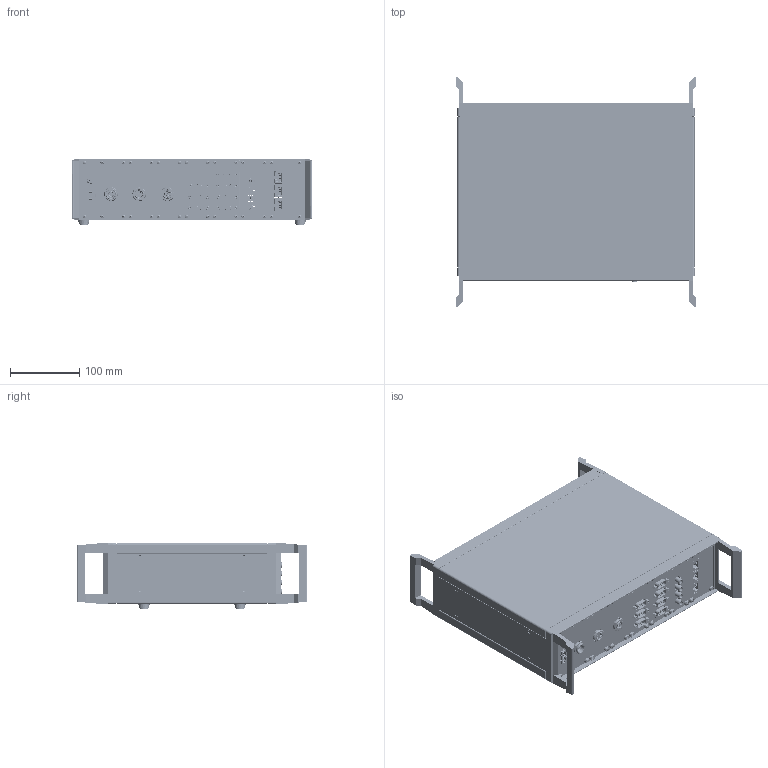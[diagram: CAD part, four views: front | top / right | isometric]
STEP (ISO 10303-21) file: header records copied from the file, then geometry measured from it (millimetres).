
FILE_DESCRIPTION(/* description */ ('VX1161 Customer Reference Model'),/* implementation_level */ '2;1');
FILE_NAME(/* name */ 'C:\Users\teamcentersystem\Documents\Inventor\GRP_001045_iam.STP',/* time_stamp */ '2020-01-08T13:30:54+01:00',/* author */ ('viskhp'),/* organization */ (''),/* preprocessor_version */ 'ST-DEVELOPER v17.2',/* originating_system */ 'Autodesk Inventor 2019',/* authorisation */ '');
FILE_SCHEMA (('AUTOMOTIVE_DESIGN { 1 0 10303 214 3 1 1 }'));
Products named in the file (70): GRP_001045; GRP_000242; CMP_001643; CMP_001635; CMP_001648; CMP_001644; CMP_001638; CMP_001652; CMP_001651; CMP_001650; CMP_001645; CMP_001640; CMP_001639; CMP_001637; CMP_001646; CMP_001642; CMP_001641; CMP_001636; CMP_001657; CMP_001649; CMP_001647; CMP_001656; CMP_001654; CMP_001655; CMP_001653; CMP_001634; CMP_001488; GRP_000268; MEC_000405; MEC_000405_1; LBL_000212; MEC_000299; ASY_000398; LBL_000246; ASY_000396; MEC_000378; LBL_000247; MEC_000318; ASY_000397; GRP_000272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
Assembly tree (222 placements, depth 5):
  GRP_001045
    GRP_000242
      CMP_001643  x4
      CMP_001635  x2
      CMP_001644  x6
      CMP_001634  x4
      CMP_001648  x2
      CMP_001638  x2
      CMP_001652  x16
        CMP_001651
        CMP_001650
      CMP_001645  x16
      CMP_001640
        CMP_001639
        CMP_001636  x2
          CMP_001649
          CMP_001657
      CMP_001637  x4
      CMP_001646
      CMP_001642
        CMP_001641
        CMP_001636  x2
          CMP_001649
          CMP_001657
      CMP_001647  x2
      CMP_001656  x4
        CMP_001654
        CMP_001655
        CMP_001653
      CMP_001488  x8
    GRP_000268
      MEC_000405
        MEC_000405_1
        CMP_000493
      CMP_001630
      CMP_001632  x2
      CMP_002060  x2
    LBL_000212
    MEC_000299
    MEC_000318  x3
    ASY_000398
    GRP_000272  x3
      MEC_000409
        MEC_000409_1
        CMP_000493  x2
      CMP_001630
      CMP_001632
      CMP_002060
    LBL_000246
    ASY_000396
    MEC_000378
    LBL_000247
    ASY_000397
    LBL_000216
    MEC_000300
    GRP_000273
      MEC_000467
      CMP_001630
      CMP_001632  x4
      CMP_002060  x4
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Bounding box: 347.42 x 331.99 x 95.33 mm (x, y, z)
Volume: 955142.5 mm3; surface area: 1334937.4 mm2
Topology: 446 solids, 446 shells, 48592 faces, 133849 edges, 87263 vertices
Faces by surface type: plane 33292, cylinder 9397, bspline 3736, cone 1288, torus 699, sphere 180
Full cylindrical faces by diameter (mm): 0 x10, 0.001 x5, 0.002 x10, 0.5 x42, 0.52 x8, 0.55 x14, 0.7 x234, 0.75 x8, 0.8 x12, 0.82 x6, 0.84 x6, 0.9 x31, 0.94 x28, 1 x56, 1.02 x14, 1.1 x28, 1.15 x8, 1.22 x12, 1.23 x8, 1.27 x36, 1.3 x48, 1.35 x24, 1.4 x24, 1.9 x30, 2.05 x384, 2.156 x14, 2.5 x127, 2.54 x14, 2.68 x4, 2.7 x42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
Entity records: 640834 total; most frequent: CARTESIAN_POINT 133523, ORIENTED_EDGE 106592, DIRECTION 96922, EDGE_CURVE 53296, LINE 43350, VECTOR 43350, VERTEX_POINT 35303, AXIS2_PLACEMENT_3D 26786
